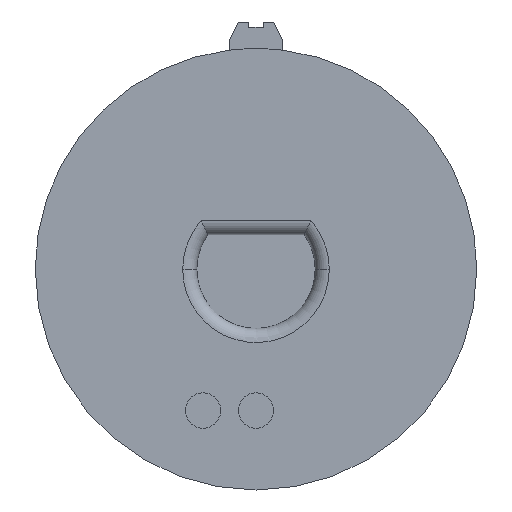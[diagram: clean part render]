
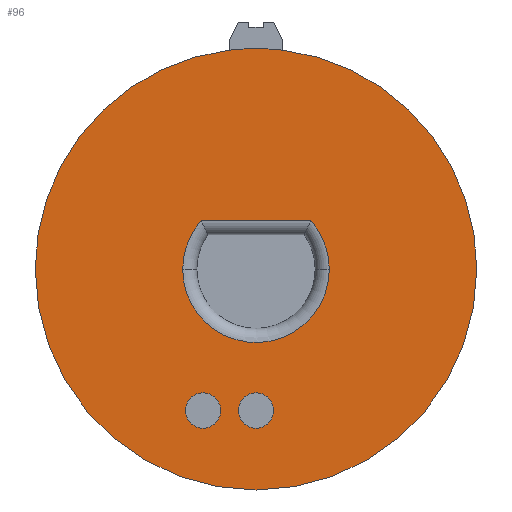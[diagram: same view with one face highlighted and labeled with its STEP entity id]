
A CAD part, left-side view. The second image highlights one B-rep face of the part: STEP entity #96.
In plain terms, the highlighted planar face has unit normal (-1, 0, 0).
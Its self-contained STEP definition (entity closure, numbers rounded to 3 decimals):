
#47=FACE_BOUND('',#312,.F.);
#48=FACE_BOUND('',#313,.F.);
#49=FACE_BOUND('',#314,.F.);
#96=ADVANCED_FACE('',(#47,#48,#49,#204),#944,.T.);
#204=FACE_OUTER_BOUND('',#315,.F.);
#312=EDGE_LOOP('',(#442,#443));
#313=EDGE_LOOP('',(#444,#445,#446,#447,#448,#449));
#314=EDGE_LOOP('',(#450,#451));
#315=EDGE_LOOP('',(#452,#453,#454,#455));
#442=ORIENTED_EDGE('',*,*,#1350,.T.);
#443=ORIENTED_EDGE('',*,*,#1349,.T.);
#444=ORIENTED_EDGE('',*,*,#1355,.F.);
#445=ORIENTED_EDGE('',*,*,#1356,.F.);
#446=ORIENTED_EDGE('',*,*,#1354,.T.);
#447=ORIENTED_EDGE('',*,*,#1353,.T.);
#448=ORIENTED_EDGE('',*,*,#1352,.T.);
#449=ORIENTED_EDGE('',*,*,#1351,.T.);
#450=ORIENTED_EDGE('',*,*,#1348,.T.);
#451=ORIENTED_EDGE('',*,*,#1347,.T.);
#452=ORIENTED_EDGE('',*,*,#1417,.F.);
#453=ORIENTED_EDGE('',*,*,#1375,.F.);
#454=ORIENTED_EDGE('',*,*,#1376,.F.);
#455=ORIENTED_EDGE('',*,*,#1414,.F.);
#944=PLANE('',#1925);
#993=CIRCLE('',#1810,1.);
#994=CIRCLE('',#1811,1.);
#995=CIRCLE('',#1812,1.);
#996=CIRCLE('',#1813,1.);
#997=CIRCLE('',#1814,4.15);
#998=CIRCLE('',#1815,4.15);
#999=CIRCLE('',#1816,4.15);
#1000=CIRCLE('',#1817,4.15);
#1003=CIRCLE('',#1820,12.5);
#1004=CIRCLE('',#1821,12.5);
#1028=CIRCLE('',#1845,12.5);
#1029=CIRCLE('',#1846,12.5);
#1121=LINE('',#2844,#1230);
#1122=LINE('',#2845,#1231);
#1230=VECTOR('',#2076,1.608);
#1231=VECTOR('',#2077,4.608);
#1347=EDGE_CURVE('',#1750,#1749,#993,.T.);
#1348=EDGE_CURVE('',#1749,#1750,#994,.T.);
#1349=EDGE_CURVE('',#1748,#1747,#995,.T.);
#1350=EDGE_CURVE('',#1747,#1748,#996,.T.);
#1351=EDGE_CURVE('',#1746,#1745,#997,.T.);
#1352=EDGE_CURVE('',#1744,#1746,#998,.T.);
#1353=EDGE_CURVE('',#1743,#1744,#999,.T.);
#1354=EDGE_CURVE('',#1742,#1743,#1000,.T.);
#1355=EDGE_CURVE('',#1741,#1745,#1121,.T.);
#1356=EDGE_CURVE('',#1742,#1741,#1122,.T.);
#1375=EDGE_CURVE('',#1722,#1723,#1003,.T.);
#1376=EDGE_CURVE('',#1721,#1722,#1004,.T.);
#1414=EDGE_CURVE('',#1672,#1721,#1028,.T.);
#1417=EDGE_CURVE('',#1723,#1672,#1029,.T.);
#1672=VERTEX_POINT('',#2651);
#1721=VERTEX_POINT('',#2700);
#1722=VERTEX_POINT('',#2701);
#1723=VERTEX_POINT('',#2702);
#1741=VERTEX_POINT('',#2720);
#1742=VERTEX_POINT('',#2721);
#1743=VERTEX_POINT('',#2722);
#1744=VERTEX_POINT('',#2723);
#1745=VERTEX_POINT('',#2724);
#1746=VERTEX_POINT('',#2725);
#1747=VERTEX_POINT('',#2726);
#1748=VERTEX_POINT('',#2727);
#1749=VERTEX_POINT('',#2728);
#1750=VERTEX_POINT('',#2729);
#1810=AXIS2_PLACEMENT_3D('',#2836,#2060,#2061);
#1811=AXIS2_PLACEMENT_3D('',#2837,#2062,#2063);
#1812=AXIS2_PLACEMENT_3D('',#2838,#2064,#2065);
#1813=AXIS2_PLACEMENT_3D('',#2839,#2066,#2067);
#1814=AXIS2_PLACEMENT_3D('',#2840,#2068,#2069);
#1815=AXIS2_PLACEMENT_3D('',#2841,#2070,#2071);
#1816=AXIS2_PLACEMENT_3D('',#2842,#2072,#2073);
#1817=AXIS2_PLACEMENT_3D('',#2843,#2074,#2075);
#1820=AXIS2_PLACEMENT_3D('',#2906,#2092,#2093);
#1821=AXIS2_PLACEMENT_3D('',#2907,#2094,#2095);
#1845=AXIS2_PLACEMENT_3D('',#2945,#2156,#2157);
#1846=AXIS2_PLACEMENT_3D('',#2948,#2160,#2161);
#1925=AXIS2_PLACEMENT_3D('',#3333,#2383,#2384);
#2060=DIRECTION('',(-1.,0.,0.));
#2061=DIRECTION('',(0.,-1.,0.));
#2062=DIRECTION('',(-1.,0.,0.));
#2063=DIRECTION('',(0.,1.,0.));
#2064=DIRECTION('',(-1.,0.,0.));
#2065=DIRECTION('',(0.,-1.,0.));
#2066=DIRECTION('',(-1.,0.,0.));
#2067=DIRECTION('',(0.,1.,0.));
#2068=DIRECTION('',(-1.,0.,0.));
#2069=DIRECTION('',(0.,-1.,0.));
#2070=DIRECTION('',(-1.,0.,0.));
#2071=DIRECTION('',(0.,-0.361,-0.932));
#2072=DIRECTION('',(-1.,0.,0.));
#2073=DIRECTION('',(0.,1.,0.));
#2074=DIRECTION('',(-1.,0.,0.));
#2075=DIRECTION('',(0.,0.749,0.663));
#2076=DIRECTION('',(0.,-1.,0.));
#2077=DIRECTION('',(0.,-1.,0.));
#2092=DIRECTION('',(-1.,0.,0.));
#2093=DIRECTION('',(0.,-0.12,0.993));
#2094=DIRECTION('',(-1.,0.,0.));
#2095=DIRECTION('',(0.,-1.,0.));
#2156=DIRECTION('',(-1.,0.,0.));
#2157=DIRECTION('',(0.,1.,0.));
#2160=DIRECTION('',(-1.,0.,0.));
#2161=DIRECTION('',(0.,0.12,0.993));
#2383=DIRECTION('',(-1.,0.,0.));
#2384=DIRECTION('',(0.,0.,1.));
#2651=CARTESIAN_POINT('',(0.,-84.5,-50.));
#2700=CARTESIAN_POINT('',(0.,-109.5,-50.));
#2701=CARTESIAN_POINT('',(0.,-98.5,-37.59));
#2702=CARTESIAN_POINT('',(0.,-95.5,-37.59));
#2720=CARTESIAN_POINT('',(0.,-98.5,-47.249));
#2721=CARTESIAN_POINT('',(0.,-93.892,-47.249));
#2722=CARTESIAN_POINT('',(0.,-92.85,-50.));
#2723=CARTESIAN_POINT('',(0.,-98.5,-53.869));
#2724=CARTESIAN_POINT('',(0.,-100.108,-47.249));
#2725=CARTESIAN_POINT('',(0.,-101.15,-50.));
#2726=CARTESIAN_POINT('',(0.,-96.,-58.));
#2727=CARTESIAN_POINT('',(0.,-98.,-58.));
#2728=CARTESIAN_POINT('',(0.,-93.,-58.));
#2729=CARTESIAN_POINT('',(0.,-95.,-58.));
#2836=CARTESIAN_POINT('',(0.,-94.,-58.));
#2837=CARTESIAN_POINT('',(0.,-94.,-58.));
#2838=CARTESIAN_POINT('',(0.,-97.,-58.));
#2839=CARTESIAN_POINT('',(0.,-97.,-58.));
#2840=CARTESIAN_POINT('',(0.,-97.,-50.));
#2841=CARTESIAN_POINT('',(0.,-97.,-50.));
#2842=CARTESIAN_POINT('',(0.,-97.,-50.));
#2843=CARTESIAN_POINT('',(0.,-97.,-50.));
#2844=CARTESIAN_POINT('',(0.,-98.5,-47.249));
#2845=CARTESIAN_POINT('',(0.,-93.892,-47.249));
#2906=CARTESIAN_POINT('',(0.,-97.,-50.));
#2907=CARTESIAN_POINT('',(0.,-97.,-50.));
#2945=CARTESIAN_POINT('',(0.,-97.,-50.));
#2948=CARTESIAN_POINT('',(0.,-97.,-50.));
#3333=CARTESIAN_POINT('',(0.,-109.75,-62.75));
